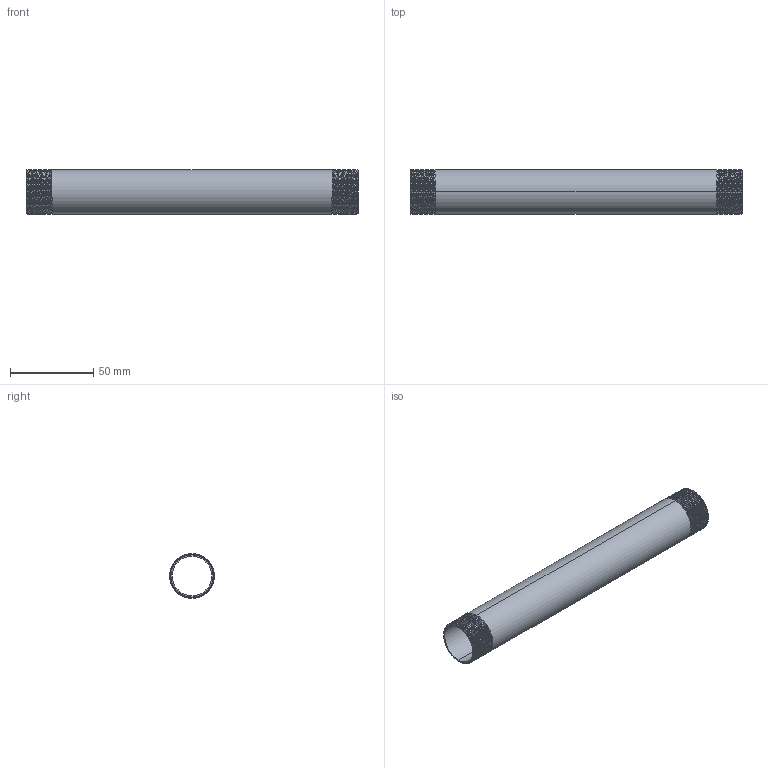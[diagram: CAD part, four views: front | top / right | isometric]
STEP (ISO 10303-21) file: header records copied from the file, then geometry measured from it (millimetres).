
FILE_DESCRIPTION (( 'STEP AP203' ), '1' );
FILE_NAME ('3D_R210_3-4x200_17185640.STEP', '2024-08-16T10:56:12', ( '' ), ( '' ), 'SwSTEP 2.0', 'SolidWorks 2024', '' );
FILE_SCHEMA (( 'CONFIG_CONTROL_DESIGN' ));
Length unit declared in the file: millimetre
Products named in the file (1): 3D_R210_3-4x200_17185640
Bounding box: 200 x 26.87 x 26.9 mm (x, y, z)
Volume: 23147.7 mm3; surface area: 33326.9 mm2
Topology: 1 solids, 1 shells, 80 faces, 226 edges, 148 vertices
Faces by surface type: cone 66, bspline 6, cylinder 4, plane 4
Entity records: 13361 total; most frequent: CARTESIAN_POINT 11499, ORIENTED_EDGE 452, DIRECTION 254, EDGE_CURVE 226, VERTEX_POINT 148, B_SPLINE_CURVE_WITH_KNOTS 128, AXIS2_PLACEMENT_3D 89, EDGE_LOOP 82
